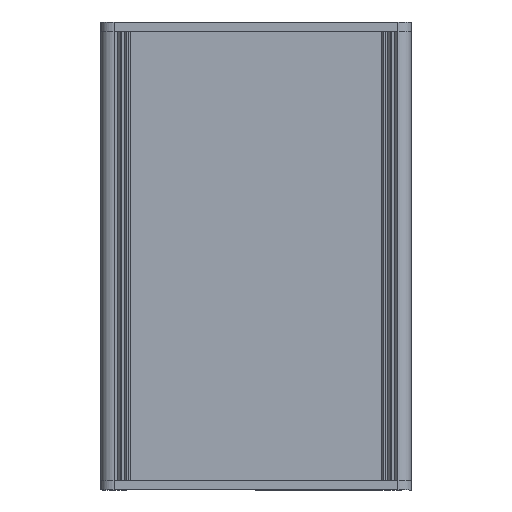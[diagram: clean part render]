
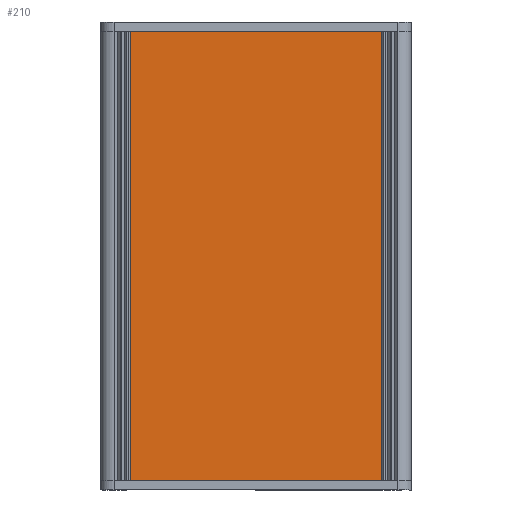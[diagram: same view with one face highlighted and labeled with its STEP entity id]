
A CAD part, front view. The second image highlights one B-rep face of the part: STEP entity #210.
In plain terms, the highlighted planar face has unit normal (0, -1, 0).
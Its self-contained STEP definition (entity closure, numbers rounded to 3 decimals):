
#152=CARTESIAN_POINT('',(62.4,-10.28,100.0));
#153=VERTEX_POINT('',#152);
#161=CARTESIAN_POINT('',(62.4,-10.28,0.0));
#162=VERTEX_POINT('',#161);
#163=CARTESIAN_POINT('',(62.4,-10.28,0.0));
#164=DIRECTION('',(0.0,0.0,1.0));
#165=VECTOR('',#164,100.0);
#166=LINE('',#163,#165);
#167=EDGE_CURVE('',#162,#153,#166,.T.);
#180=CARTESIAN_POINT('',(62.4,-10.28,0.0));
#181=DIRECTION('',(0.0,-1.0,0.0));
#182=DIRECTION('',(0.0,0.0,-1.0));
#183=AXIS2_PLACEMENT_3D('',#180,#181,#182);
#184=PLANE('',#183);
#185=CARTESIAN_POINT('',(6.7,-10.28,100.0));
#186=VERTEX_POINT('',#185);
#187=CARTESIAN_POINT('',(62.4,-10.28,100.0));
#188=DIRECTION('',(-1.0,0.0,0.0));
#189=VECTOR('',#188,55.7);
#190=LINE('',#187,#189);
#191=EDGE_CURVE('',#153,#186,#190,.T.);
#192=ORIENTED_EDGE('',*,*,#191,.T.);
#193=CARTESIAN_POINT('',(6.7,-10.28,0.0));
#194=VERTEX_POINT('',#193);
#195=CARTESIAN_POINT('',(6.7,-10.28,0.0));
#196=DIRECTION('',(0.0,0.0,1.0));
#197=VECTOR('',#196,100.0);
#198=LINE('',#195,#197);
#199=EDGE_CURVE('',#194,#186,#198,.T.);
#200=ORIENTED_EDGE('',*,*,#199,.F.);
#201=CARTESIAN_POINT('',(6.7,-10.28,0.0));
#202=DIRECTION('',(1.0,0.0,0.0));
#203=VECTOR('',#202,55.7);
#204=LINE('',#201,#203);
#205=EDGE_CURVE('',#194,#162,#204,.T.);
#206=ORIENTED_EDGE('',*,*,#205,.T.);
#207=ORIENTED_EDGE('',*,*,#167,.T.);
#208=EDGE_LOOP('',(#192,#200,#206,#207));
#209=FACE_OUTER_BOUND('',#208,.T.);
#210=ADVANCED_FACE('',(#209),#184,.T.);
